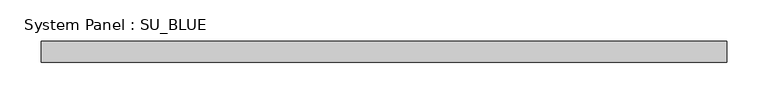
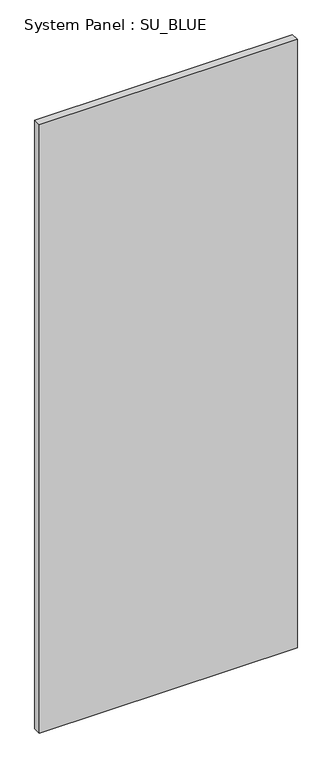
"""IFC4 building model written with IfcOpenShell, lengths in millimetres: plate geometry, System Panel : SU_BLUE."""

from ifc_helpers import new_model, si_unit, origin, origin_with_axes, place, context, project, spatial, polyline, outline, extrude, source, transform, mapped, element, save


def system_panel_su_blue_04b5f7fc(model_context):
    return source(origin(), model_context, "Body", "SweptSolid", [
        extrude(outline(polyline([(415.3596123, 19.05), (-415.3596123, 19.05), (-415.3596123, 44.45), (415.3596123, 44.45), (415.3596123, 19.05)])), origin_with_axes(), (0.0, 0.0, 1.0), 2070.1),
    ])


if __name__ == "__main__":
    model = new_model("IFC4")
    model_context = context("Model", 3, world=origin())
    ifc_project = project(units=[si_unit("LENGTHUNIT", "METRE", prefix="MILLI")], contexts=[model_context])
    site = spatial("IfcSite", under=ifc_project)
    building = spatial("IfcBuilding", under=site)
    placement = place(None, origin())
    system_panel_su_blue_shape = system_panel_su_blue_04b5f7fc(model_context)
    element("IfcPlate", 1, ObjectType="System Panel : SU_BLUE", at=placement, inside=building, context=model_context, shape_type="MappedRepresentation", body=[
        mapped(system_panel_su_blue_shape, transform((0.0, 0.0, 0.0), x_axis=(1.0, 0.0, 0.0), y_axis=(0.0, 1.0, 0.0), z_axis=(0.0, 0.0, 1.0))),
    ])
    save(model, "model.ifc")
